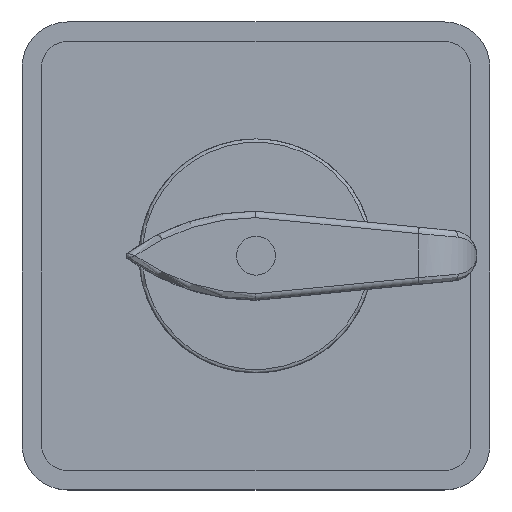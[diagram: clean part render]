
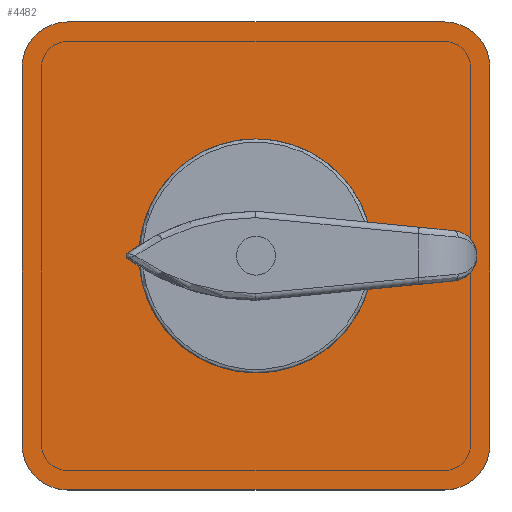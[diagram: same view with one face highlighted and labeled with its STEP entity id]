
A CAD part, top view. The second image highlights one B-rep face of the part: STEP entity #4482.
In plain terms, the highlighted planar face has unit normal (0, 0, 1).
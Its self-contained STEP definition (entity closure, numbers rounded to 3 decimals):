
#494=CARTESIAN_POINT('',(29.,29.,3.35));
#495=DIRECTION('',(0.,0.,1.));
#496=DIRECTION('',(1.,0.,0.));
#497=AXIS2_PLACEMENT_3D('',#494,#495,#496);
#499=DIRECTION('',(0.,1.,0.));
#500=VECTOR('',#499,58.);
#501=CARTESIAN_POINT('',(36.,-29.,3.35));
#502=LINE('',#501,#500);
#503=CARTESIAN_POINT('',(29.,-29.,3.35));
#504=DIRECTION('',(0.,0.,1.));
#505=DIRECTION('',(0.,-1.,0.));
#506=AXIS2_PLACEMENT_3D('',#503,#504,#505);
#508=DIRECTION('',(1.,0.,0.));
#509=VECTOR('',#508,58.);
#510=CARTESIAN_POINT('',(-29.,-36.,3.35));
#511=LINE('',#510,#509);
#512=CARTESIAN_POINT('',(-29.,-29.,3.35));
#513=DIRECTION('',(0.,0.,1.));
#514=DIRECTION('',(-1.,0.,0.));
#515=AXIS2_PLACEMENT_3D('',#512,#513,#514);
#517=DIRECTION('',(0.,-1.,0.));
#518=VECTOR('',#517,58.);
#519=CARTESIAN_POINT('',(-36.,29.,3.35));
#520=LINE('',#519,#518);
#521=CARTESIAN_POINT('',(-29.,29.,3.35));
#522=DIRECTION('',(0.,0.,1.));
#523=DIRECTION('',(0.,1.,0.));
#524=AXIS2_PLACEMENT_3D('',#521,#522,#523);
#526=DIRECTION('',(-1.,0.,0.));
#527=VECTOR('',#526,58.);
#528=CARTESIAN_POINT('',(29.,36.,3.35));
#529=LINE('',#528,#527);
#530=CARTESIAN_POINT('',(0.,0.,3.35));
#531=DIRECTION('',(0.,0.,1.));
#532=DIRECTION('',(-0.947,0.322,0.));
#533=AXIS2_PLACEMENT_3D('',#530,#531,#532);
#535=DIRECTION('',(-1.,0.,0.));
#536=VECTOR('',#535,1.727);
#537=CARTESIAN_POINT('',(-8.52,-2.9,3.35));
#538=LINE('',#537,#536);
#562=CARTESIAN_POINT('',(0.,0.,3.35));
#563=DIRECTION('',(0.,0.,1.));
#564=DIRECTION('',(-0.962,0.272,0.));
#565=AXIS2_PLACEMENT_3D('',#562,#563,#564);
#567=DIRECTION('',(1.,0.,0.));
#568=VECTOR('',#567,1.727);
#569=CARTESIAN_POINT('',(-10.247,2.9,3.35));
#570=LINE('',#569,#568);
#612=CARTESIAN_POINT('',(0.,0.,3.35));
#613=DIRECTION('',(0.,0.,1.));
#614=DIRECTION('',(0.322,0.947,0.));
#615=AXIS2_PLACEMENT_3D('',#612,#613,#614);
#617=DIRECTION('',(0.,1.,0.));
#618=VECTOR('',#617,1.727);
#619=CARTESIAN_POINT('',(-2.9,8.52,3.35));
#620=LINE('',#619,#618);
#644=CARTESIAN_POINT('',(0.,0.,3.35));
#645=DIRECTION('',(0.,0.,1.));
#646=DIRECTION('',(0.272,0.962,0.));
#647=AXIS2_PLACEMENT_3D('',#644,#645,#646);
#649=DIRECTION('',(0.,-1.,0.));
#650=VECTOR('',#649,1.727);
#651=CARTESIAN_POINT('',(2.9,10.247,3.35));
#652=LINE('',#651,#650);
#694=CARTESIAN_POINT('',(0.,0.,3.35));
#695=DIRECTION('',(0.,0.,1.));
#696=DIRECTION('',(0.947,-0.322,0.));
#697=AXIS2_PLACEMENT_3D('',#694,#695,#696);
#703=DIRECTION('',(1.,0.,0.));
#704=VECTOR('',#703,1.727);
#705=CARTESIAN_POINT('',(8.52,2.9,3.35));
#706=LINE('',#705,#704);
#726=CARTESIAN_POINT('',(0.,0.,3.35));
#727=DIRECTION('',(0.,0.,1.));
#728=DIRECTION('',(0.962,-0.272,0.));
#729=AXIS2_PLACEMENT_3D('',#726,#727,#728);
#731=DIRECTION('',(-1.,0.,0.));
#732=VECTOR('',#731,1.727);
#733=CARTESIAN_POINT('',(10.247,-2.9,3.35));
#734=LINE('',#733,#732);
#776=CARTESIAN_POINT('',(0.,0.,3.35));
#777=DIRECTION('',(0.,0.,1.));
#778=DIRECTION('',(-0.322,-0.947,0.));
#779=AXIS2_PLACEMENT_3D('',#776,#777,#778);
#781=DIRECTION('',(0.,-1.,0.));
#782=VECTOR('',#781,1.727);
#783=CARTESIAN_POINT('',(2.9,-8.52,3.35));
#784=LINE('',#783,#782);
#808=CARTESIAN_POINT('',(0.,0.,3.35));
#809=DIRECTION('',(0.,0.,1.));
#810=DIRECTION('',(-0.272,-0.962,0.));
#811=AXIS2_PLACEMENT_3D('',#808,#809,#810);
#813=DIRECTION('',(0.,1.,0.));
#814=VECTOR('',#813,1.727);
#815=CARTESIAN_POINT('',(-2.9,-10.247,3.35));
#816=LINE('',#815,#814);
#3005=CARTESIAN_POINT('',(36.,29.,3.35));
#3006=VERTEX_POINT('',#3005);
#3007=CARTESIAN_POINT('',(29.,36.,3.35));
#3008=VERTEX_POINT('',#3007);
#3013=CARTESIAN_POINT('',(29.,-36.,3.35));
#3014=VERTEX_POINT('',#3013);
#3015=CARTESIAN_POINT('',(36.,-29.,3.35));
#3016=VERTEX_POINT('',#3015);
#3021=CARTESIAN_POINT('',(-36.,-29.,3.35));
#3022=VERTEX_POINT('',#3021);
#3023=CARTESIAN_POINT('',(-29.,-36.,3.35));
#3024=VERTEX_POINT('',#3023);
#3029=CARTESIAN_POINT('',(-29.,36.,3.35));
#3030=VERTEX_POINT('',#3029);
#3031=CARTESIAN_POINT('',(-36.,29.,3.35));
#3032=VERTEX_POINT('',#3031);
#3761=CARTESIAN_POINT('',(-2.9,-8.52,3.35));
#3762=CARTESIAN_POINT('',(2.9,-8.52,3.35));
#3763=VERTEX_POINT('',#3761);
#3764=VERTEX_POINT('',#3762);
#3765=CARTESIAN_POINT('',(8.52,-2.9,3.35));
#3766=CARTESIAN_POINT('',(8.52,2.9,3.35));
#3767=VERTEX_POINT('',#3765);
#3768=VERTEX_POINT('',#3766);
#3769=CARTESIAN_POINT('',(2.9,8.52,3.35));
#3770=CARTESIAN_POINT('',(-2.9,8.52,3.35));
#3771=VERTEX_POINT('',#3769);
#3772=VERTEX_POINT('',#3770);
#3773=CARTESIAN_POINT('',(-8.52,2.9,3.35));
#3774=CARTESIAN_POINT('',(-8.52,-2.9,3.35));
#3775=VERTEX_POINT('',#3773);
#3776=VERTEX_POINT('',#3774);
#3793=CARTESIAN_POINT('',(10.247,-2.9,3.35));
#3794=VERTEX_POINT('',#3793);
#3797=CARTESIAN_POINT('',(10.247,2.9,3.35));
#3798=VERTEX_POINT('',#3797);
#3801=CARTESIAN_POINT('',(2.9,10.247,3.35));
#3802=VERTEX_POINT('',#3801);
#3805=CARTESIAN_POINT('',(-2.9,10.247,3.35));
#3806=VERTEX_POINT('',#3805);
#3809=CARTESIAN_POINT('',(-10.247,2.9,3.35));
#3810=VERTEX_POINT('',#3809);
#3813=CARTESIAN_POINT('',(-10.247,-2.9,3.35));
#3814=VERTEX_POINT('',#3813);
#3817=CARTESIAN_POINT('',(-2.9,-10.247,3.35));
#3818=VERTEX_POINT('',#3817);
#3821=CARTESIAN_POINT('',(2.9,-10.247,3.35));
#3822=VERTEX_POINT('',#3821);
#4427=CARTESIAN_POINT('',(0.,0.,3.35));
#4428=DIRECTION('',(0.,0.,1.));
#4429=DIRECTION('',(1.,0.,0.));
#4430=AXIS2_PLACEMENT_3D('',#4427,#4428,#4429);
#4431=PLANE('',#4430);
#4432=ORIENTED_EDGE('',*,*,#4323,.F.);
#4433=ORIENTED_EDGE('',*,*,#4339,.F.);
#4434=ORIENTED_EDGE('',*,*,#4352,.F.);
#4435=ORIENTED_EDGE('',*,*,#4367,.F.);
#4436=ORIENTED_EDGE('',*,*,#4380,.F.);
#4437=ORIENTED_EDGE('',*,*,#4395,.F.);
#4438=ORIENTED_EDGE('',*,*,#4408,.F.);
#4439=ORIENTED_EDGE('',*,*,#4420,.F.);
#4440=EDGE_LOOP('',(#4432,#4433,#4434,#4435,#4436,#4437,#4438,#4439));
#4441=FACE_OUTER_BOUND('',#4440,.F.);
#4443=ORIENTED_EDGE('',*,*,#4442,.F.);
#4445=ORIENTED_EDGE('',*,*,#4444,.F.);
#4447=ORIENTED_EDGE('',*,*,#4446,.T.);
#4449=ORIENTED_EDGE('',*,*,#4448,.F.);
#4450=EDGE_LOOP('',(#4443,#4445,#4447,#4449));
#4451=FACE_BOUND('',#4450,.F.);
#4453=ORIENTED_EDGE('',*,*,#4452,.F.);
#4455=ORIENTED_EDGE('',*,*,#4454,.F.);
#4457=ORIENTED_EDGE('',*,*,#4456,.T.);
#4459=ORIENTED_EDGE('',*,*,#4458,.F.);
#4460=EDGE_LOOP('',(#4453,#4455,#4457,#4459));
#4461=FACE_BOUND('',#4460,.F.);
#4463=ORIENTED_EDGE('',*,*,#4462,.F.);
#4465=ORIENTED_EDGE('',*,*,#4464,.F.);
#4467=ORIENTED_EDGE('',*,*,#4466,.T.);
#4469=ORIENTED_EDGE('',*,*,#4468,.F.);
#4470=EDGE_LOOP('',(#4463,#4465,#4467,#4469));
#4471=FACE_BOUND('',#4470,.F.);
#4473=ORIENTED_EDGE('',*,*,#4472,.F.);
#4475=ORIENTED_EDGE('',*,*,#4474,.F.);
#4477=ORIENTED_EDGE('',*,*,#4476,.T.);
#4479=ORIENTED_EDGE('',*,*,#4478,.F.);
#4480=EDGE_LOOP('',(#4473,#4475,#4477,#4479));
#4481=FACE_BOUND('',#4480,.F.);
#4482=ADVANCED_FACE('',(#4441,#4451,#4461,#4471,#4481),#4431,.T.);
#498=CIRCLE('',#497,7.);
#507=CIRCLE('',#506,7.);
#516=CIRCLE('',#515,7.);
#525=CIRCLE('',#524,7.);
#534=CIRCLE('',#533,9.);
#566=CIRCLE('',#565,10.65);
#616=CIRCLE('',#615,9.);
#648=CIRCLE('',#647,10.65);
#698=CIRCLE('',#697,9.);
#730=CIRCLE('',#729,10.65);
#780=CIRCLE('',#779,9.);
#812=CIRCLE('',#811,10.65);
#4323=EDGE_CURVE('',#3006,#3008,#498,.T.);
#4339=EDGE_CURVE('',#3016,#3006,#502,.T.);
#4352=EDGE_CURVE('',#3014,#3016,#507,.T.);
#4367=EDGE_CURVE('',#3024,#3014,#511,.T.);
#4380=EDGE_CURVE('',#3022,#3024,#516,.T.);
#4395=EDGE_CURVE('',#3032,#3022,#520,.T.);
#4408=EDGE_CURVE('',#3030,#3032,#525,.T.);
#4420=EDGE_CURVE('',#3008,#3030,#529,.T.);
#4442=EDGE_CURVE('',#3775,#3776,#534,.T.);
#4444=EDGE_CURVE('',#3810,#3775,#570,.T.);
#4446=EDGE_CURVE('',#3810,#3814,#566,.T.);
#4448=EDGE_CURVE('',#3776,#3814,#538,.T.);
#4452=EDGE_CURVE('',#3771,#3772,#616,.T.);
#4454=EDGE_CURVE('',#3802,#3771,#652,.T.);
#4456=EDGE_CURVE('',#3802,#3806,#648,.T.);
#4458=EDGE_CURVE('',#3772,#3806,#620,.T.);
#4462=EDGE_CURVE('',#3767,#3768,#698,.T.);
#4464=EDGE_CURVE('',#3794,#3767,#734,.T.);
#4466=EDGE_CURVE('',#3794,#3798,#730,.T.);
#4468=EDGE_CURVE('',#3768,#3798,#706,.T.);
#4472=EDGE_CURVE('',#3763,#3764,#780,.T.);
#4474=EDGE_CURVE('',#3818,#3763,#816,.T.);
#4476=EDGE_CURVE('',#3818,#3822,#812,.T.);
#4478=EDGE_CURVE('',#3764,#3822,#784,.T.);
